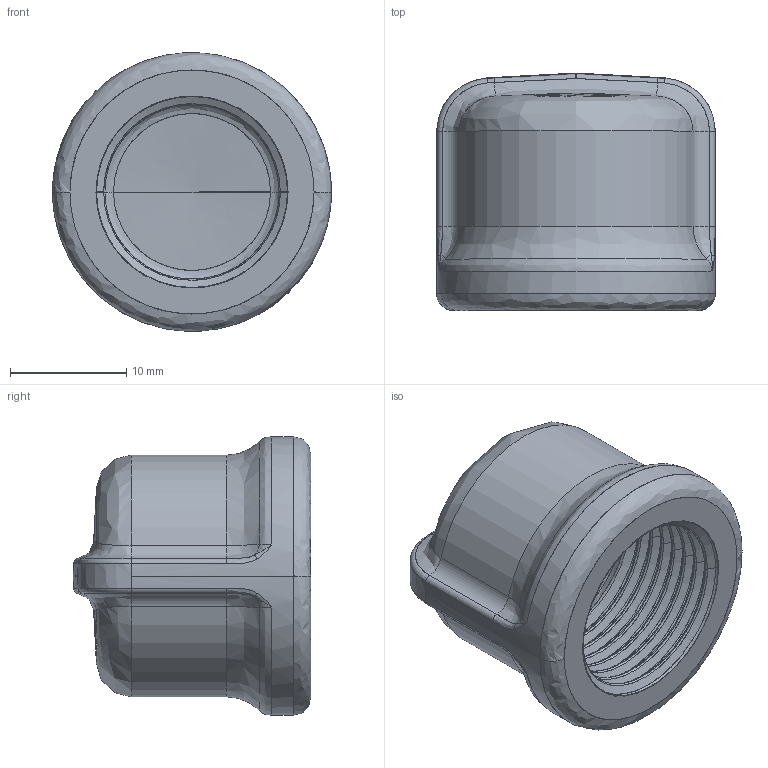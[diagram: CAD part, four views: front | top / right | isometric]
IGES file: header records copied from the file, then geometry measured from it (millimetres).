
Start section: SolidWorks IGES file using analytic representation for surfaces
Global section: file name: C:\Users\Joel Rosa\Desktop\Tubulação\12-42-XXX\12-42-003.IGS; native system: SolidWorks 2011; preprocessor: SolidWorks 2011; author: Joel Rosa; date: 130923.224706; units: millimetre
Bounding box: 24 x 20.45 x 24 mm (x, y, z)
Surface area: 3142.3 mm2 (no closed solid volume)
Topology: 0 solids, 0 shells, 258 faces, 2704 edges, 2698 vertices
Faces by surface type: bspline 192, revolution 66
